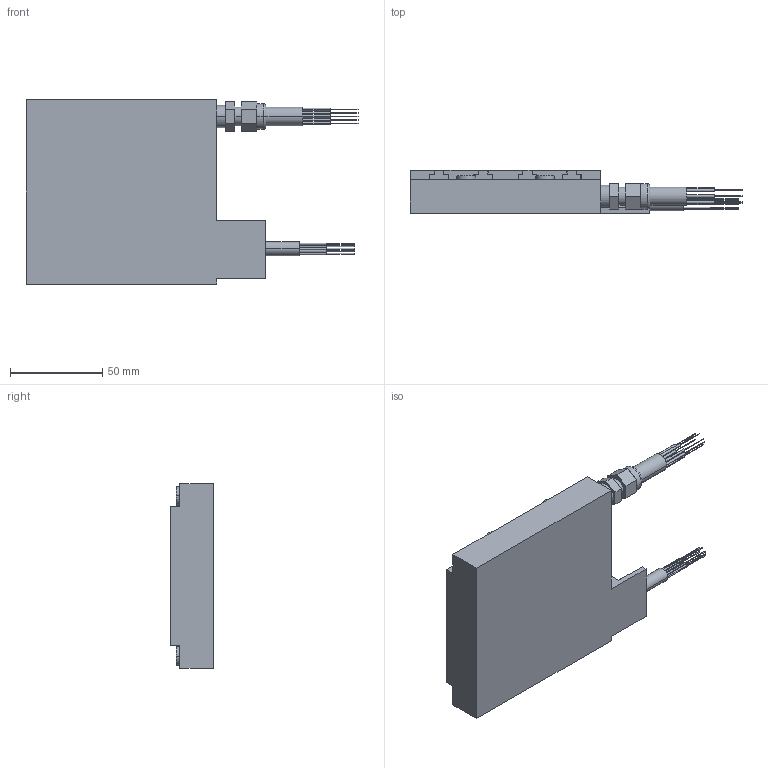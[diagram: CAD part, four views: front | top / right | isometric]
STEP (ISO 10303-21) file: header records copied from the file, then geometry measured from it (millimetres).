
FILE_DESCRIPTION((''),'2;1');
FILE_NAME('ICD05-075','2007-01-14T',('saurabh.singhal'),(''),'PRO/ENGINEER BY PARAMETRIC TECHNOLOGY CORPORATION, 2005450','PRO/ENGINEER BY PARAMETRIC TECHNOLOGY CORPORATION, 2005450','');
FILE_SCHEMA(('CONFIG_CONTROL_DESIGN'));
Length unit declared in the file: millimetre
Products named in the file (1): ICD05-075
Bounding box: 180.3 x 23.2 x 100 mm (x, y, z)
Volume: 241382.9 mm3; surface area: 46233.4 mm2
Topology: 1 solids, 21 shells, 385 faces, 925 edges, 593 vertices
Faces by surface type: plane 175, cylinder 168, cone 40, torus 2
Entity records: 11022 total; most frequent: DIRECTION 2041, CARTESIAN_POINT 1864, ORIENTED_EDGE 1690, EDGE_CURVE 885, AXIS2_PLACEMENT_3D 770, VERTEX_POINT 593, VECTOR 501, LINE 501
